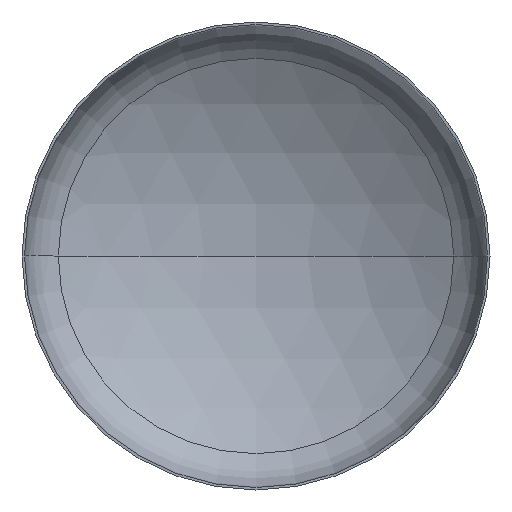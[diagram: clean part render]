
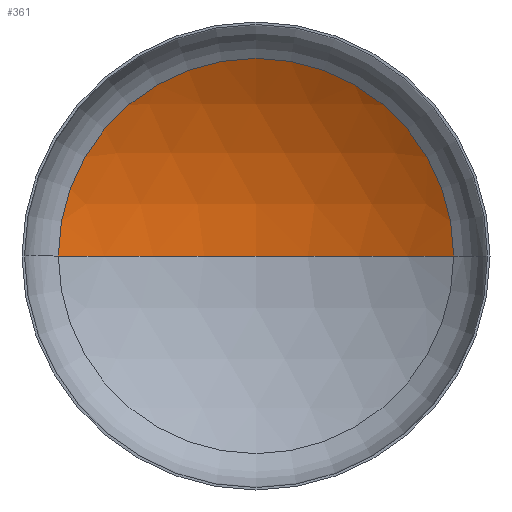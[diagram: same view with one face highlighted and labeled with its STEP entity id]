
A CAD part, front view. The second image highlights one B-rep face of the part: STEP entity #361.
In plain terms, the highlighted spherical face has radius 1200 mm.
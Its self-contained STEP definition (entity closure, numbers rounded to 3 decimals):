
#20 = EDGE_LOOP ( 'NONE', ( #109, #46, #40 ) ) ;
#39 = VERTEX_POINT ( 'NONE', #367 ) ;
#40 = ORIENTED_EDGE ( 'NONE', *, *, #179, .T. ) ;
#46 = ORIENTED_EDGE ( 'NONE', *, *, #159, .T. ) ;
#47 = VERTEX_POINT ( 'NONE', #201 ) ;
#57 = DIRECTION ( 'NONE',  ( 0., 0., -1. ) ) ;
#94 = DIRECTION ( 'NONE',  ( -1., 0., 0. ) ) ;
#105 = CIRCLE ( 'NONE', #145, 633.402 ) ;
#109 = ORIENTED_EDGE ( 'NONE', *, *, #126, .F. ) ;
#113 = VERTEX_POINT ( 'NONE', #161 ) ;
#115 = AXIS2_PLACEMENT_3D ( 'NONE', #297, #292, #304 ) ;
#126 = EDGE_CURVE ( 'NONE', #113, #47, #284, .T. ) ;
#138 = FACE_OUTER_BOUND ( 'NONE', #20, .T. ) ;
#145 = AXIS2_PLACEMENT_3D ( 'NONE', #183, #186, #167 ) ;
#159 = EDGE_CURVE ( 'NONE', #113, #39, #348, .T. ) ;
#161 = CARTESIAN_POINT ( 'NONE',  ( 0., 401.134, 0. ) ) ;
#167 = DIRECTION ( 'NONE',  ( 1., 0., 0. ) ) ;
#173 = CARTESIAN_POINT ( 'NONE',  ( 0., -798.866, 0. ) ) ;
#174 = DIRECTION ( 'NONE',  ( 0., 0., -1. ) ) ;
#177 = AXIS2_PLACEMENT_3D ( 'NONE', #173, #174, #287 ) ;
#179 = EDGE_CURVE ( 'NONE', #39, #47, #105, .T. ) ;
#183 = CARTESIAN_POINT ( 'NONE',  ( 0., 220.35, 0. ) ) ;
#186 = DIRECTION ( 'NONE',  ( 0., -1., 0. ) ) ;
#201 = CARTESIAN_POINT ( 'NONE',  ( -633.402, 220.35, 0. ) ) ;
#230 = AXIS2_PLACEMENT_3D ( 'NONE', #246, #57, #94 ) ;
#246 = CARTESIAN_POINT ( 'NONE',  ( 0., -798.866, 0. ) ) ;
#284 = CIRCLE ( 'NONE', #115, 1200. ) ;
#287 = DIRECTION ( 'NONE',  ( -1., 0., 0. ) ) ;
#292 = DIRECTION ( 'NONE',  ( 0., 0., 1. ) ) ;
#297 = CARTESIAN_POINT ( 'NONE',  ( 0., -798.866, 0. ) ) ;
#304 = DIRECTION ( 'NONE',  ( 1., 0., 0. ) ) ;
#348 = CIRCLE ( 'NONE', #177, 1200. ) ;
#361 = ADVANCED_FACE ( 'NONE', ( #138 ), #366, .F. ) ;
#366 = SPHERICAL_SURFACE ( 'NONE', #230, 1200. ) ;
#367 = CARTESIAN_POINT ( 'NONE',  ( 633.402, 220.35, 0. ) ) ;
